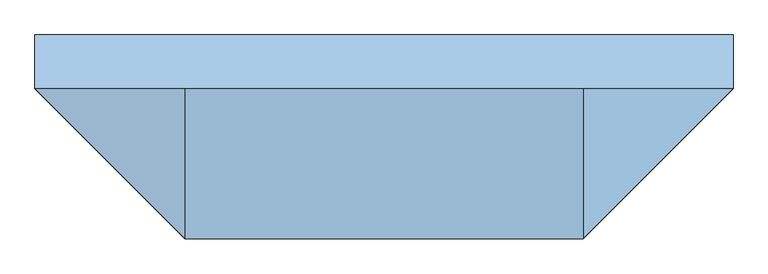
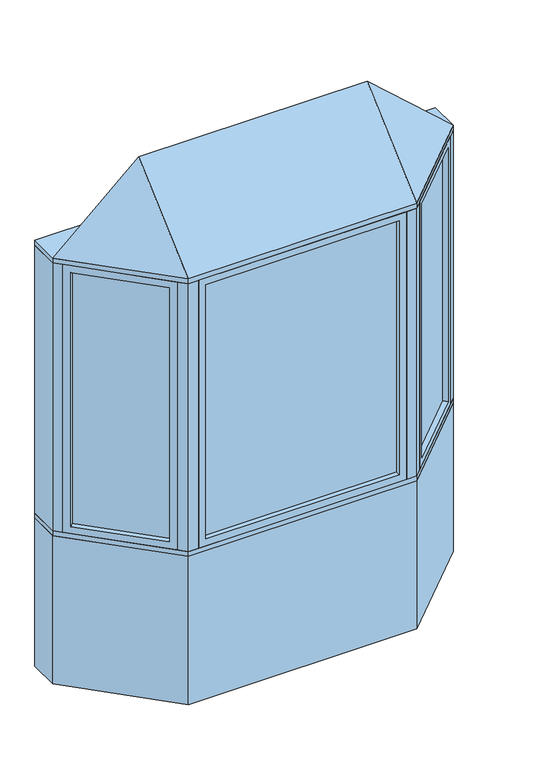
"""IFC4 building model written with IfcOpenShell, lengths in millimetres: window geometry, Pollard_Windows_Tudor Casement Bows and Bays : AML-BAY 45 AFR0514-10-500."""

from ifc_helpers import new_model, si_unit, frame, origin, origin_with_axes, place, context, project, spatial, polyline, outline, extrude, faceted_brep, source, transform, mapped, element, save


def window_b3cdb5a9(model_context):
    return source(origin(), model_context, "Body", "SolidModel", [
        extrude(outline(polyline([(924.0964271, -104.763169), (598.324814, -430.5347822), (594.7327115, -426.9426797), (920.5043247, -101.1710666), (924.0964271, -104.763169)])), frame((0.0, 0.0, 823.1628), z_axis=(0.0, 0.0, 1.0), x_axis=(1.0, 0.0, 0.0)), (0.0, 0.0, 1.0), 1353.6704),
        faceted_brep([(915.116171, -113.7434252, 835.8628), (933.0766833, -131.7039374, 835.8628), (933.0766833, -131.7039374, 2164.1332), (915.116171, -113.7434252, 2164.1332), (920.5043247, -101.1710666, 823.1628), (924.0964271, -104.763169, 823.1628), (924.0964271, -104.763169, 2176.8332), (920.5043247, -101.1710666, 2176.8332), (893.5635563, -92.1908105, 835.8628), (911.5240686, -110.1513227, 835.8628), (911.5240686, -110.1513227, 2164.1332), (893.5635563, -92.1908105, 2164.1332), (958.4369265, -106.3436941, 799.998), (918.9237996, -66.8305672, 799.998), (918.9237996, -66.8305672, 2199.998), (958.4369265, -106.3436941, 2199.998), (625.2655823, -439.5150383, 2164.1332), (607.3050701, -421.5545261, 2164.1332), (598.324814, -430.5347822, 2176.8332), (594.7327115, -426.9426797, 2176.8332), (603.7129677, -417.9624236, 2164.1332), (585.7524554, -400.0019114, 2164.1332), (560.3922121, -425.3621547, 2199.998), (599.9053391, -464.8752816, 2199.998), (625.2655823, -439.5150383, 835.8628), (607.3050701, -421.5545261, 835.8628), (598.324814, -430.5347822, 823.1628), (594.7327115, -426.9426797, 823.1628), (603.7129677, -417.9624236, 835.8628), (585.7524554, -400.0019114, 835.8628), (560.3922121, -425.3621547, 799.998), (599.9053391, -464.8752816, 799.998)], [[[0, 1, 2, 3]], [[4, 5, 6, 7]], [[8, 9, 10, 11]], [[12, 13, 14, 15]], [[3, 2, 16, 17]], [[7, 6, 18, 19]], [[11, 10, 20, 21]], [[15, 14, 22, 23]], [[17, 16, 24, 25]], [[19, 18, 26, 27]], [[21, 20, 28, 29]], [[23, 22, 30, 31]], [[25, 24, 1, 0]], [[5, 26, 18, 6], [3, 17, 25, 0]], [[27, 26, 5, 4]], [[7, 19, 27, 4], [9, 28, 20, 10]], [[29, 28, 9, 8]], [[13, 30, 22, 14], [11, 21, 29, 8]], [[31, 30, 13, 12]], [[15, 23, 31, 12], [1, 24, 16, 2]]]),
        extrude(outline(polyline([(-598.324814, -430.5347822), (-924.0964271, -104.763169), (-920.5043247, -101.1710666), (-594.7327115, -426.9426797), (-598.324814, -430.5347822)])), frame((0.0, 0.0, 823.1628), z_axis=(0.0, 0.0, 1.0), x_axis=(1.0, 0.0, 0.0)), (0.0, 0.0, 1.0), 1353.6704),
        faceted_brep([(-603.7129677, -417.9624236, 2164.1332), (-585.7524554, -400.0019114, 2164.1332), (-585.7524554, -400.0019114, 835.8628), (-603.7129677, -417.9624236, 835.8628), (-598.324814, -430.5347822, 2176.8332), (-594.7327115, -426.9426797, 2176.8332), (-594.7327115, -426.9426797, 823.1628), (-598.324814, -430.5347822, 823.1628), (-625.2655823, -439.5150383, 2164.1332), (-607.3050701, -421.5545261, 2164.1332), (-607.3050701, -421.5545261, 835.8628), (-625.2655823, -439.5150383, 835.8628), (-560.3922121, -425.3621547, 2199.998), (-599.9053391, -464.8752816, 2199.998), (-599.9053391, -464.8752816, 799.998), (-560.3922121, -425.3621547, 799.998), (-893.5635563, -92.1908105, 835.8628), (-911.5240686, -110.1513227, 835.8628), (-920.5043247, -101.1710666, 823.1628), (-924.0964271, -104.763169, 823.1628), (-915.116171, -113.7434252, 835.8628), (-933.0766833, -131.7039374, 835.8628), (-958.4369265, -106.3436941, 799.998), (-918.9237996, -66.8305672, 799.998), (-893.5635563, -92.1908105, 2164.1332), (-911.5240686, -110.1513227, 2164.1332), (-920.5043247, -101.1710666, 2176.8332), (-924.0964271, -104.763169, 2176.8332), (-915.116171, -113.7434252, 2164.1332), (-933.0766833, -131.7039374, 2164.1332), (-958.4369265, -106.3436941, 2199.998), (-918.9237996, -66.8305672, 2199.998)], [[[0, 1, 2, 3]], [[4, 5, 6, 7]], [[8, 9, 10, 11]], [[12, 13, 14, 15]], [[3, 2, 16, 17]], [[7, 6, 18, 19]], [[11, 10, 20, 21]], [[15, 14, 22, 23]], [[17, 16, 24, 25]], [[19, 18, 26, 27]], [[21, 20, 28, 29]], [[23, 22, 30, 31]], [[15, 23, 31, 12], [1, 24, 16, 2]], [[25, 24, 1, 0]], [[5, 26, 18, 6], [3, 17, 25, 0]], [[27, 26, 5, 4]], [[7, 19, 27, 4], [9, 28, 20, 10]], [[29, 28, 9, 8]], [[13, 30, 22, 14], [11, 21, 29, 8]], [[31, 30, 13, 12]]]),
        extrude(outline(polyline([(491.3852, -474.8306207), (-491.3852, -474.8306207), (-491.3852, -469.7506207), (491.3852, -469.7506207), (491.3852, -474.8306207)])), frame((0.0, 0.0, 823.1628), z_axis=(0.0, 0.0, 1.0), x_axis=(1.0, 0.0, 0.0)), (0.0, 0.0, 1.0), 1353.6704),
        faceted_brep([(478.6852, -474.8306207, 835.8628), (478.6852, -500.2306207, 835.8628), (478.6852, -500.2306207, 2164.1332), (478.6852, -474.8306207, 2164.1332), (491.3852, -469.7506207, 823.1628), (491.3852, -474.8306207, 823.1628), (491.3852, -474.8306207, 2176.8332), (491.3852, -469.7506207, 2176.8332), (478.6852, -444.3506207, 835.8628), (478.6852, -469.7506207, 835.8628), (478.6852, -469.7506207, 2164.1332), (478.6852, -444.3506207, 2164.1332), (514.55, -500.2306207, 799.998), (514.55, -444.3506207, 799.998), (514.55, -444.3506207, 2199.998), (514.55, -500.2306207, 2199.998), (-478.6852, -500.2306207, 2164.1332), (-478.6852, -474.8306207, 2164.1332), (-491.3852, -474.8306207, 2176.8332), (-491.3852, -469.7506207, 2176.8332), (-478.6852, -469.7506207, 2164.1332), (-478.6852, -444.3506207, 2164.1332), (-514.55, -444.3506207, 2199.998), (-514.55, -500.2306207, 2199.998), (-478.6852, -500.2306207, 835.8628), (-478.6852, -474.8306207, 835.8628), (-491.3852, -474.8306207, 823.1628), (-491.3852, -469.7506207, 823.1628), (-478.6852, -469.7506207, 835.8628), (-478.6852, -444.3506207, 835.8628), (-514.55, -444.3506207, 799.998), (-514.55, -500.2306207, 799.998)], [[[0, 1, 2, 3]], [[4, 5, 6, 7]], [[8, 9, 10, 11]], [[12, 13, 14, 15]], [[3, 2, 16, 17]], [[7, 6, 18, 19]], [[11, 10, 20, 21]], [[15, 14, 22, 23]], [[17, 16, 24, 25]], [[19, 18, 26, 27]], [[21, 20, 28, 29]], [[23, 22, 30, 31]], [[15, 23, 31, 12], [1, 24, 16, 2]], [[25, 24, 1, 0]], [[5, 26, 18, 6], [3, 17, 25, 0]], [[27, 26, 5, 4]], [[7, 19, 27, 4], [9, 28, 20, 10]], [[29, 28, 9, 8]], [[13, 30, 22, 14], [11, 21, 29, 8]], [[31, 30, 13, 12]]]),
        faceted_brep([(990.0, -74.7806207, 2225.398), (564.55, -500.2306207, 2225.398), (-564.55, -500.2306207, 2225.398), (-990.0, -74.7806207, 2225.398), (-564.55, -74.7806207, 2606.398), (564.55, -74.7806207, 2606.398)], [[[0, 1, 2, 3]], [[3, 2, 4]], [[2, 1, 5, 4]], [[1, 0, 5]], [[0, 3, 4, 5]]]),
        extrude(outline(polyline([(-990.0, 77.6193793), (990.0, 77.6193793), (990.0, -74.7806207), (564.55, -500.2306207), (-564.55, -500.2306207), (-990.0, -74.7806207), (-990.0, 77.6193793)])), frame((0.0, 0.0, 2199.998), z_axis=(0.0, 0.0, 1.0), x_axis=(1.0, 0.0, 0.0)), (0.0, 0.0, 1.0), 25.4),
        extrude(outline(polyline([(-990.0, -74.7806207), (-990.0, 77.6193793), (-926.8738531, 77.6193793), (-926.8738531, -74.7806207), (-958.4369265, -106.3436941), (-990.0, -74.7806207)])), frame((0.0, 0.0, 799.998), z_axis=(0.0, 0.0, 1.0), x_axis=(1.0, 0.0, 0.0)), (0.0, 0.0, 1.0), 1400.0),
        extrude(outline(polyline([(990.0, 77.6193793), (990.0, -74.7806207), (958.4369265, -106.3436941), (926.8738531, -74.7806207), (926.8738531, 77.6193793), (990.0, 77.6193793)])), frame((0.0, 0.0, 799.998), z_axis=(0.0, 0.0, 1.0), x_axis=(1.0, 0.0, 0.0)), (0.0, 0.0, 1.0), 1400.0),
        extrude(outline(polyline([(564.55, -500.2306207), (514.55, -500.2306207), (514.55, -450.2306207), (543.8393219, -450.2306207), (564.55, -429.5199425), (599.9053391, -464.8752816), (564.55, -500.2306207)])), frame((0.0, 0.0, 799.998), z_axis=(0.0, 0.0, 1.0), x_axis=(1.0, 0.0, 0.0)), (0.0, 0.0, 1.0), 1400.0),
        extrude(outline(polyline([(-564.55, -500.2306207), (-599.9053391, -464.8752816), (-564.55, -429.5199425), (-543.8393219, -450.2306207), (-514.55, -450.2306207), (-514.55, -500.2306207), (-564.55, -500.2306207)])), frame((0.0, 0.0, 799.998), z_axis=(0.0, 0.0, 1.0), x_axis=(1.0, 0.0, 0.0)), (0.0, 0.0, 1.0), 1400.0),
        extrude(outline(polyline([(-564.55, -500.2306207), (-990.0, -74.7806207), (-990.0, 77.6193793), (-926.8738531, 77.6193793), (-501.4238531, -347.8306207), (501.4238531, -347.8306207), (926.8738531, 77.6193793), (990.0, 77.6193793), (990.0, -74.7806207), (564.55, -500.2306207), (-564.55, -500.2306207)])), frame((0.0, 0.0, 774.598), z_axis=(0.0, 0.0, 1.0), x_axis=(1.0, 0.0, 0.0)), (0.0, 0.0, 1.0), 25.4),
        extrude(outline(polyline([(-990.0, -74.7806207), (-990.0, 77.6193793), (-926.8738531, 77.6193793), (-501.4238531, -347.8306207), (501.4238531, -347.8306207), (926.8738531, 77.6193793), (990.0, 77.6193793), (990.0, -74.7806207), (564.55, -500.2306207), (-564.55, -500.2306207), (-990.0, -74.7806207)])), origin_with_axes(), (0.0, 0.0, 1.0), 774.598),
    ])


if __name__ == "__main__":
    model = new_model("IFC4")
    model_context = context("Model", 3, world=origin())
    ifc_project = project(units=[si_unit("LENGTHUNIT", "METRE", prefix="MILLI")], contexts=[model_context])
    site = spatial("IfcSite", under=ifc_project)
    building = spatial("IfcBuilding", under=site)
    placement = place(None, origin())
    window_shape = window_b3cdb5a9(model_context)
    element("IfcWindow", 1, ObjectType="Pollard_Windows_Tudor Casement Bows and Bays : AML-BAY 45 AFR0514-10-500", at=placement, inside=building, context=model_context, shape_type="MappedRepresentation", body=[
        mapped(window_shape, transform((0.0, 0.0, 0.0), x_axis=(1.0, 0.0, 0.0), y_axis=(0.0, 1.0, 0.0), z_axis=(0.0, 0.0, 1.0))),
    ])
    save(model, "model.ifc")
